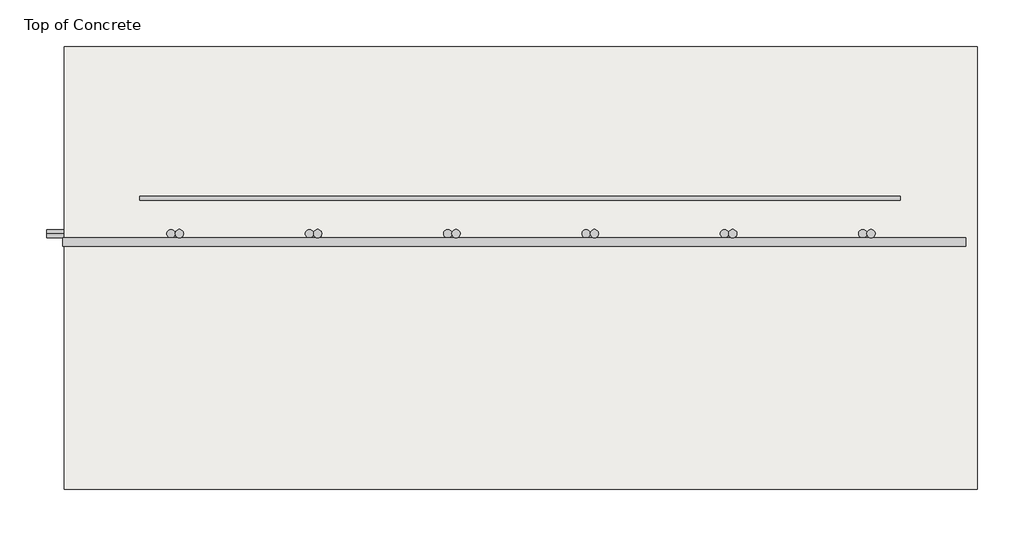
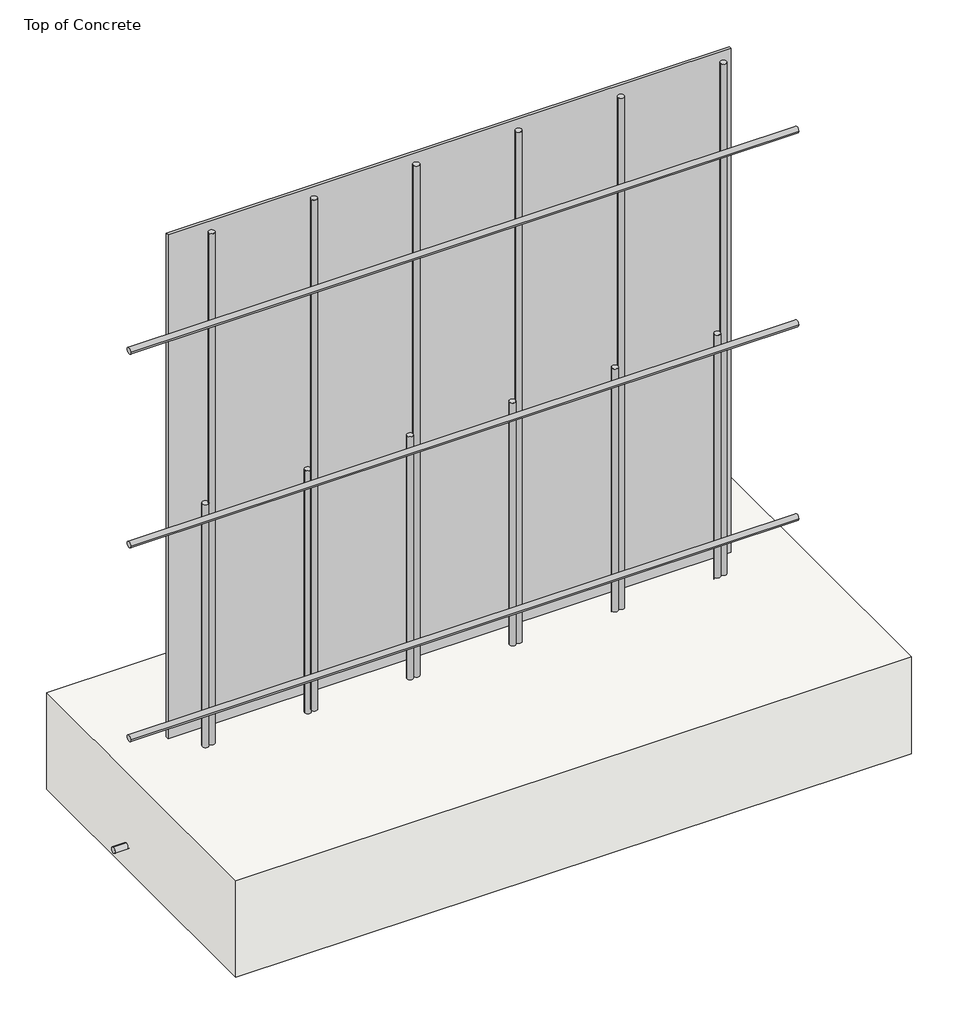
# One storey, incomplete: 16 proxies, 1 slab.
"""IFC4 building model written with IfcOpenShell, lengths in millimetres."""

from ifc_helpers import new_model, si_unit, frame, origin, origin_with_axes, place, context, project, spatial, polyline, outline, extrude, transform, mapped, element, save
from components import onesteel_rnf_bar_onesteel_rnf_bar_horiz_eb721214, onesteel_rnf_bar_onesteel_rnf_bar_vert_0c4c5851, onesteel_rnf_bar_starter_onesteel_rnf_bar_vert_be2ae213

model = new_model("IFC4")

# Units and contexts
model_context = context("Model", 3, world=origin())
ifc_project = project(units=[si_unit("LENGTHUNIT", "METRE", prefix="MILLI")], contexts=[model_context])

# Site, building, storey
site = spatial("IfcSite", under=ifc_project)
building = spatial("IfcBuilding", under=site)
storey = spatial("IfcBuildingStorey", under=building, Name="Top of Concrete", Elevation=0.0)

# Proxies
placement = place(None, origin())
element("IfcBuildingElementProxy", 1, Name="CSR-Sheet : Cemintel 6mm", ObjectType="CSR-Sheet : Cemintel 6mm", at=placement, inside=storey, context=model_context, shape_type="SweptSolid", body=[
    extrude(outline(polyline([(-7812.6872823, 7658.2382122), (-7812.6872823, 7652.2382122), (-8912.6872823, 7652.2382122), (-8912.6872823, 7658.2382122), (-7812.6872823, 7658.2382122)])), origin_with_axes(), (0.0, 0.0, 1.0), 1040.0),
])
onesteel_rnf_bar_onesteel_rnf_bar_horiz_shape = onesteel_rnf_bar_onesteel_rnf_bar_horiz_eb721214(model_context)
element("IfcBuildingElementProxy", 2, Name="OneSteel-RNF-Bar : OneSteel-RNF-Bar-Horiz", ObjectType="OneSteel-RNF-Bar : OneSteel-RNF-Bar-Horiz", at=placement, inside=storey, context=model_context, shape_type="MappedRepresentation", body=[
    mapped(onesteel_rnf_bar_onesteel_rnf_bar_horiz_shape, transform((-9023.4055132, 7592.2382122, 75.8976103), x_axis=(1.0, 0.0, 0.0), y_axis=(0.0, 1.0, 0.0), z_axis=(0.0, 0.0, 1.0))),
])
element("IfcBuildingElementProxy", 3, Name="OneSteel-RNF-Bar : OneSteel-RNF-Bar-Horiz", ObjectType="OneSteel-RNF-Bar : OneSteel-RNF-Bar-Horiz", at=placement, inside=storey, context=model_context, shape_type="MappedRepresentation", body=[
    mapped(onesteel_rnf_bar_onesteel_rnf_bar_horiz_shape, transform((-9023.4055132, 7592.2382122, 475.8976103), x_axis=(1.0, 0.0, 0.0), y_axis=(0.0, 1.0, 0.0), z_axis=(0.0, 0.0, 1.0))),
])
element("IfcBuildingElementProxy", 4, Name="OneSteel-RNF-Bar : OneSteel-RNF-Bar-Horiz", ObjectType="OneSteel-RNF-Bar : OneSteel-RNF-Bar-Horiz", at=placement, inside=storey, context=model_context, shape_type="MappedRepresentation", body=[
    mapped(onesteel_rnf_bar_onesteel_rnf_bar_horiz_shape, transform((-9023.4055132, 7592.2382122, 875.8976103), x_axis=(1.0, 0.0, 0.0), y_axis=(0.0, 1.0, 0.0), z_axis=(0.0, 0.0, 1.0))),
])
onesteel_rnf_bar_onesteel_rnf_bar_vert_shape = onesteel_rnf_bar_onesteel_rnf_bar_vert_0c4c5851(model_context)
element("IfcBuildingElementProxy", 5, Name="OneSteel-RNF-Bar : OneSteel-RNF-Bar-Vert", ObjectType="OneSteel-RNF-Bar : OneSteel-RNF-Bar-Vert", at=placement, inside=storey, context=model_context, shape_type="MappedRepresentation", body=[
    mapped(onesteel_rnf_bar_onesteel_rnf_bar_vert_shape, transform((-8455.1872823, 7604.2382122, 0.0), x_axis=(0.0, 0.0, 1.0), y_axis=(1.0, 0.0, 0.0), z_axis=(0.0, 1.0, 0.0))),
])
element("IfcBuildingElementProxy", 6, Name="OneSteel-RNF-Bar : OneSteel-RNF-Bar-Vert", ObjectType="OneSteel-RNF-Bar : OneSteel-RNF-Bar-Vert", at=placement, inside=storey, context=model_context, shape_type="MappedRepresentation", body=[
    mapped(onesteel_rnf_bar_onesteel_rnf_bar_vert_shape, transform((-8655.1872823, 7604.2382122, 0.0), x_axis=(0.0, 0.0, 1.0), y_axis=(1.0, 0.0, 0.0), z_axis=(0.0, 1.0, 0.0))),
])
element("IfcBuildingElementProxy", 7, Name="OneSteel-RNF-Bar : OneSteel-RNF-Bar-Vert", ObjectType="OneSteel-RNF-Bar : OneSteel-RNF-Bar-Vert", at=placement, inside=storey, context=model_context, shape_type="MappedRepresentation", body=[
    mapped(onesteel_rnf_bar_onesteel_rnf_bar_vert_shape, transform((-8855.1872823, 7604.2382122, 0.0), x_axis=(0.0, 0.0, 1.0), y_axis=(1.0, 0.0, 0.0), z_axis=(0.0, 1.0, 0.0))),
])
element("IfcBuildingElementProxy", 8, Name="OneSteel-RNF-Bar : OneSteel-RNF-Bar-Vert", ObjectType="OneSteel-RNF-Bar : OneSteel-RNF-Bar-Vert", at=placement, inside=storey, context=model_context, shape_type="MappedRepresentation", body=[
    mapped(onesteel_rnf_bar_onesteel_rnf_bar_vert_shape, transform((-8255.1872823, 7604.2382122, 0.0), x_axis=(0.0, 0.0, 1.0), y_axis=(1.0, 0.0, 0.0), z_axis=(0.0, 1.0, 0.0))),
])
element("IfcBuildingElementProxy", 9, Name="OneSteel-RNF-Bar : OneSteel-RNF-Bar-Vert", ObjectType="OneSteel-RNF-Bar : OneSteel-RNF-Bar-Vert", at=placement, inside=storey, context=model_context, shape_type="MappedRepresentation", body=[
    mapped(onesteel_rnf_bar_onesteel_rnf_bar_vert_shape, transform((-8055.1872823, 7604.2382122, 0.0), x_axis=(0.0, 0.0, 1.0), y_axis=(1.0, 0.0, 0.0), z_axis=(0.0, 1.0, 0.0))),
])
element("IfcBuildingElementProxy", 10, Name="OneSteel-RNF-Bar : OneSteel-RNF-Bar-Vert", ObjectType="OneSteel-RNF-Bar : OneSteel-RNF-Bar-Vert", at=placement, inside=storey, context=model_context, shape_type="MappedRepresentation", body=[
    mapped(onesteel_rnf_bar_onesteel_rnf_bar_vert_shape, transform((-7855.1872823, 7604.2382122, 0.0), x_axis=(0.0, 0.0, 1.0), y_axis=(1.0, 0.0, 0.0), z_axis=(0.0, 1.0, 0.0))),
])
onesteel_rnf_bar_starter_onesteel_rnf_bar_vert_shape = onesteel_rnf_bar_starter_onesteel_rnf_bar_vert_be2ae213(model_context)
element("IfcBuildingElementProxy", 11, Name="OneSteel-RNF-Bar Starter : OneSteel-RNF-Bar-Vert", ObjectType="OneSteel-RNF-Bar Starter : OneSteel-RNF-Bar-Vert", at=placement, inside=storey, context=model_context, shape_type="MappedRepresentation", body=[
    mapped(onesteel_rnf_bar_starter_onesteel_rnf_bar_vert_shape, transform((-8867.1872823, 7604.2382122, 500.0), x_axis=(0.0, 0.0, -1.0), y_axis=(1.0, 0.0, 0.0), z_axis=(0.0, -1.0, 0.0))),
])
element("IfcBuildingElementProxy", 12, Name="OneSteel-RNF-Bar Starter : OneSteel-RNF-Bar-Vert", ObjectType="OneSteel-RNF-Bar Starter : OneSteel-RNF-Bar-Vert", at=placement, inside=storey, context=model_context, shape_type="MappedRepresentation", body=[
    mapped(onesteel_rnf_bar_starter_onesteel_rnf_bar_vert_shape, transform((-8667.1872823, 7604.2382122, 500.0), x_axis=(0.0, 0.0, -1.0), y_axis=(1.0, 0.0, 0.0), z_axis=(0.0, -1.0, 0.0))),
])
element("IfcBuildingElementProxy", 13, Name="OneSteel-RNF-Bar Starter : OneSteel-RNF-Bar-Vert", ObjectType="OneSteel-RNF-Bar Starter : OneSteel-RNF-Bar-Vert", at=placement, inside=storey, context=model_context, shape_type="MappedRepresentation", body=[
    mapped(onesteel_rnf_bar_starter_onesteel_rnf_bar_vert_shape, transform((-8467.1872823, 7604.2382122, 500.0), x_axis=(0.0, 0.0, -1.0), y_axis=(1.0, 0.0, 0.0), z_axis=(0.0, -1.0, 0.0))),
])
element("IfcBuildingElementProxy", 14, Name="OneSteel-RNF-Bar Starter : OneSteel-RNF-Bar-Vert", ObjectType="OneSteel-RNF-Bar Starter : OneSteel-RNF-Bar-Vert", at=placement, inside=storey, context=model_context, shape_type="MappedRepresentation", body=[
    mapped(onesteel_rnf_bar_starter_onesteel_rnf_bar_vert_shape, transform((-8267.1872823, 7604.2382122, 500.0), x_axis=(0.0, 0.0, -1.0), y_axis=(1.0, 0.0, 0.0), z_axis=(0.0, -1.0, 0.0))),
])
element("IfcBuildingElementProxy", 15, Name="OneSteel-RNF-Bar Starter : OneSteel-RNF-Bar-Vert", ObjectType="OneSteel-RNF-Bar Starter : OneSteel-RNF-Bar-Vert", at=placement, inside=storey, context=model_context, shape_type="MappedRepresentation", body=[
    mapped(onesteel_rnf_bar_starter_onesteel_rnf_bar_vert_shape, transform((-8067.1872823, 7604.2382122, 500.0), x_axis=(0.0, 0.0, -1.0), y_axis=(1.0, 0.0, 0.0), z_axis=(0.0, -1.0, 0.0))),
])
element("IfcBuildingElementProxy", 16, Name="OneSteel-RNF-Bar Starter : OneSteel-RNF-Bar-Vert", ObjectType="OneSteel-RNF-Bar Starter : OneSteel-RNF-Bar-Vert", at=placement, inside=storey, context=model_context, shape_type="MappedRepresentation", body=[
    mapped(onesteel_rnf_bar_starter_onesteel_rnf_bar_vert_shape, transform((-7867.1872823, 7604.2382122, 500.0), x_axis=(0.0, 0.0, -1.0), y_axis=(1.0, 0.0, 0.0), z_axis=(0.0, -1.0, 0.0))),
])

# Slab
element("IfcSlab", 17, ObjectType="afs 200mm", at=placement, inside=storey, context=model_context, shape_type="SweptSolid", body=[
    extrude(outline(polyline([(-7701.3620885, 7874.8744822), (-7701.3620885, 7234.8744822), (-9021.3620885, 7234.8744822), (-9021.3620885, 7874.8744822), (-7701.3620885, 7874.8744822)])), frame((0.0, 0.0, -202.0), z_axis=(0.0, 0.0, 1.0), x_axis=(1.0, 0.0, 0.0)), (0.0, 0.0, 1.0), 200.0),
])

save(model, "model.ifc")
